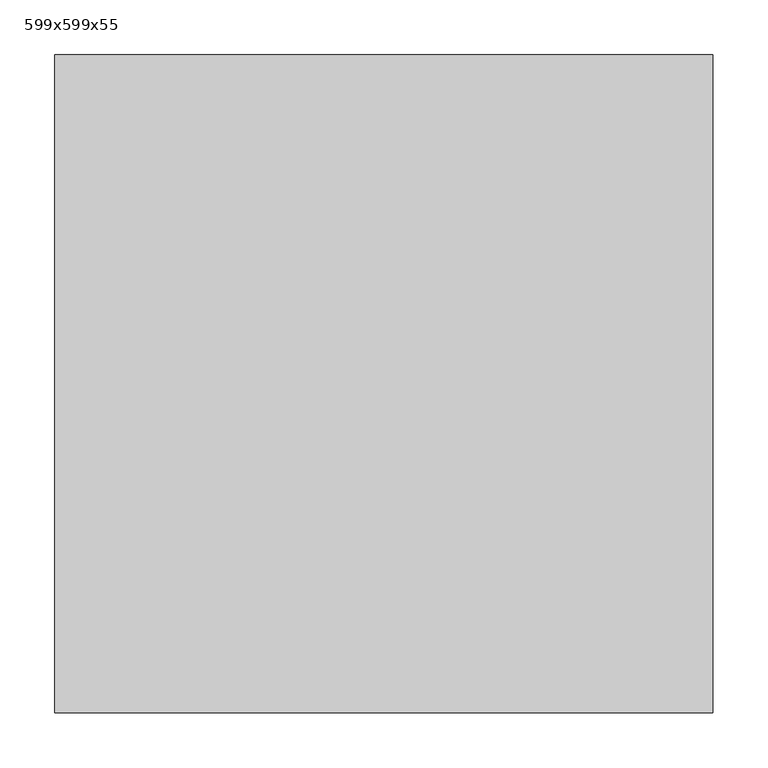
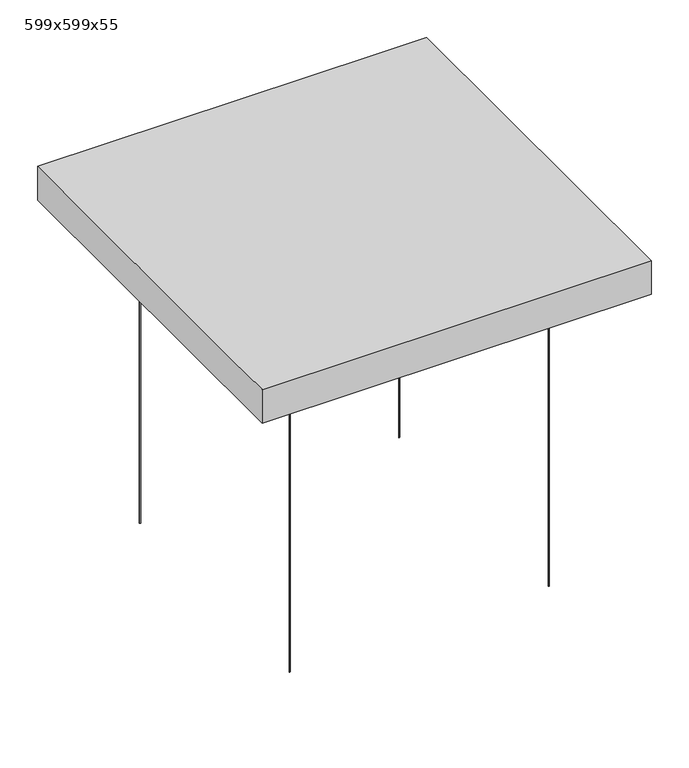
"""IFC4 building model written with IfcOpenShell, lengths in millimetres: proxy geometry, Texaa Panneaux_acoustiques Stereo suspendus_séparés : 599x599x55."""

from ifc_helpers import new_model, si_unit, point, frame, frame_2d, origin, origin_with_axes, place, context, project, spatial, polyline, circle_curve, trimmed, segment, composite_curve, outline, extrude, faceted_brep, source, transform, mapped, element, save


def proxy_599x599x55_c3c3b2f4(model_context):
    return source(origin(), model_context, "Body", "SolidModel", [
        extrude(outline(composite_curve([segment(trimmed(circle_curve(frame_2d((-199.5, -199.5)), 0.75), [point((-200.25, -199.5))], [point((-198.75, -199.5))], False, "CARTESIAN"), True, "CONTINUOUS"), segment(trimmed(circle_curve(frame_2d((-199.5, -199.5)), 0.75), [point((-198.75, -199.5))], [point((-200.25, -199.5))], False, "CARTESIAN"), True, "CONTINUOUS")], self_intersect=False)), origin_with_axes(), (0.0, 0.0, 1.0), 500.0),
        extrude(outline(composite_curve([segment(trimmed(circle_curve(frame_2d((199.5, -199.5)), 0.75), [point((198.75, -199.5))], [point((200.25, -199.5))], False, "CARTESIAN"), True, "CONTINUOUS"), segment(trimmed(circle_curve(frame_2d((199.5, -199.5)), 0.75), [point((200.25, -199.5))], [point((198.75, -199.5))], False, "CARTESIAN"), True, "CONTINUOUS")], self_intersect=False)), origin_with_axes(), (0.0, 0.0, 1.0), 500.0),
        extrude(outline(composite_curve([segment(trimmed(circle_curve(frame_2d((199.5, 199.5)), 0.75), [point((198.75, 199.5))], [point((200.25, 199.5))], False, "CARTESIAN"), True, "CONTINUOUS"), segment(trimmed(circle_curve(frame_2d((199.5, 199.5)), 0.75), [point((200.25, 199.5))], [point((198.75, 199.5))], False, "CARTESIAN"), True, "CONTINUOUS")], self_intersect=False)), origin_with_axes(), (0.0, 0.0, 1.0), 500.0),
        extrude(outline(composite_curve([segment(trimmed(circle_curve(frame_2d((-199.5, 199.5)), 0.75), [point((-200.25, 199.5))], [point((-198.75, 199.5))], False, "CARTESIAN"), True, "CONTINUOUS"), segment(trimmed(circle_curve(frame_2d((-199.5, 199.5)), 0.75), [point((-198.75, 199.5))], [point((-200.25, 199.5))], False, "CARTESIAN"), True, "CONTINUOUS")], self_intersect=False)), origin_with_axes(), (0.0, 0.0, 1.0), 500.0),
        extrude(outline(polyline([(-298.5, -298.5), (-298.5, 298.5), (298.5, 298.5), (298.5, -298.5), (-298.5, -298.5)])), frame((0.0, 0.0, 501.0), z_axis=(0.0, 0.0, 1.0), x_axis=(1.0, 0.0, 0.0)), (0.0, 0.0, 1.0), 53.0),
        faceted_brep([(299.5, 299.5, 555.0), (298.0857864, 299.5, 555.0), (221.7182541, 299.5, 555.0), (-299.5, 299.5, 555.0), (-299.5, -221.7182541, 555.0), (-299.5, -298.0857864, 555.0), (-299.5, -299.5, 555.0), (299.5, -299.5, 555.0), (-299.5, -299.5, 500.0), (-299.5, 299.5, 500.0), (299.5, 299.5, 500.0), (299.5, -299.5, 500.0), (-249.5, 249.5, 500.0), (-249.5, -249.5, 500.0), (249.5, -249.5, 500.0), (249.5, 249.5, 500.0), (-299.5, -299.5, 554.0), (299.5, 299.5, 554.0), (249.5, 249.5, 501.0), (-249.5, 249.5, 501.0), (249.5, -249.5, 501.0), (-249.5, -249.5, 501.0), (-298.5, -298.5, 554.0), (-298.5, -297.0857864, 554.0), (-298.5, -220.7182541, 554.0), (-298.5, 298.5, 554.0), (220.7182541, 298.5, 554.0), (297.0857864, 298.5, 554.0), (298.5, 298.5, 554.0), (298.5, -298.5, 554.0), (-298.5, -298.5, 501.0), (298.5, -298.5, 501.0), (298.5, 298.5, 501.0), (-298.5, 298.5, 501.0)], [[[0, 1, 2, 3, 4, 5, 6, 7]], [[8, 9, 10, 11], [12, 13, 14, 15]], [[8, 16, 6, 5, 4, 3, 9]], [[9, 3, 2, 1, 0, 17, 10]], [[7, 11, 10, 17, 0]], [[6, 16, 8, 11, 7]], [[12, 15, 18, 19]], [[15, 14, 20, 18]], [[14, 13, 21, 20]], [[19, 21, 13, 12]], [[22, 23, 24, 25, 26, 27, 28, 29]], [[30, 31, 32, 33], [18, 20, 21, 19]], [[33, 25, 24, 23, 22, 30]], [[32, 28, 27, 26, 25, 33]], [[28, 32, 31, 29]], [[29, 31, 30, 22]]]),
    ])


if __name__ == "__main__":
    model = new_model("IFC4")
    model_context = context("Model", 3, world=origin())
    ifc_project = project(units=[si_unit("LENGTHUNIT", "METRE", prefix="MILLI")], contexts=[model_context])
    site = spatial("IfcSite", under=ifc_project)
    building = spatial("IfcBuilding", under=site)
    placement = place(None, origin())
    proxy_599x599x55_shape = proxy_599x599x55_c3c3b2f4(model_context)
    element("IfcBuildingElementProxy", 1, Name="Texaa Panneaux_acoustiques Stereo suspendus_séparés : 599x599x55", ObjectType="Texaa Panneaux_acoustiques Stereo suspendus_séparés : 599x599x55", at=placement, inside=building, context=model_context, shape_type="MappedRepresentation", body=[
        mapped(proxy_599x599x55_shape, transform((0.0, 0.0, 0.0), x_axis=(1.0, 0.0, 0.0), y_axis=(0.0, 1.0, 0.0), z_axis=(0.0, 0.0, 1.0))),
    ])
    save(model, "model.ifc")
